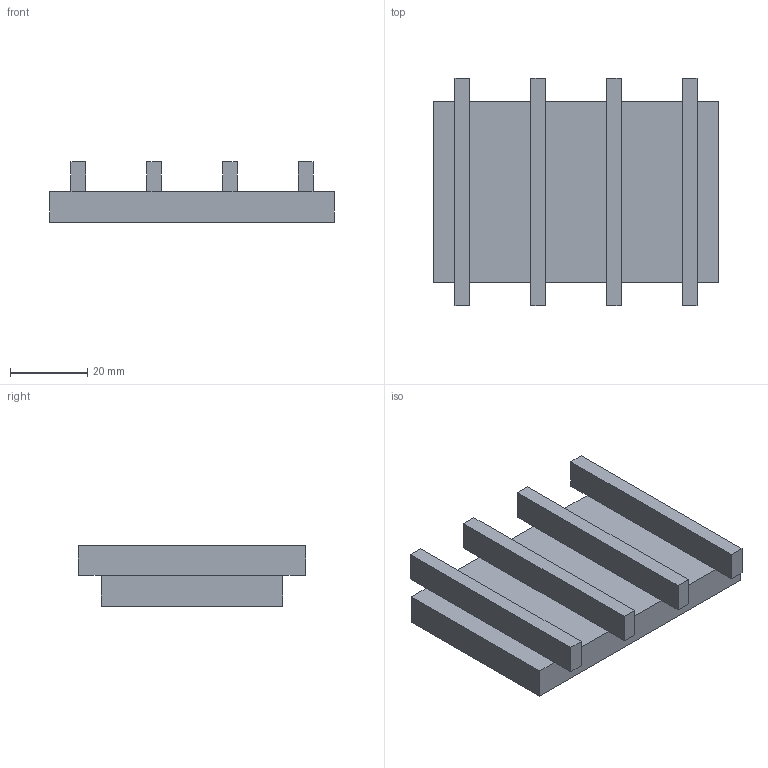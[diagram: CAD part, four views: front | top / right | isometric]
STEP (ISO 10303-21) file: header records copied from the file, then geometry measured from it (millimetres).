
FILE_DESCRIPTION(('Mechanical CAD reference from nasji.com'),'2;1');
FILE_NAME('NASJI.step','',(''),(''),'','NASJI distribution','');
FILE_SCHEMA(('AUTOMOTIVE_DESIGN { 1 0 10303 214 1 1 1 1 }'));
Length unit declared in the file: millimetre
Products named in the file (1): Open CASCADE STEP translator 7.8 84
Bounding box: 73.63 x 58.9 x 15.7 mm (x, y, z)
Volume: 34579 mm3; surface area: 13075.7 mm2
Topology: 1 solids, 1 shells, 38 faces, 92 edges, 56 vertices
Faces by surface type: plane 38
Entity records: 2274 total; most frequent: CARTESIAN_POINT 371, DIRECTION 354, LINE 276, VECTOR 276, ORIENTED_EDGE 184, PCURVE 184, DEFINITIONAL_REPRESENTATION 184, EDGE_CURVE 92
